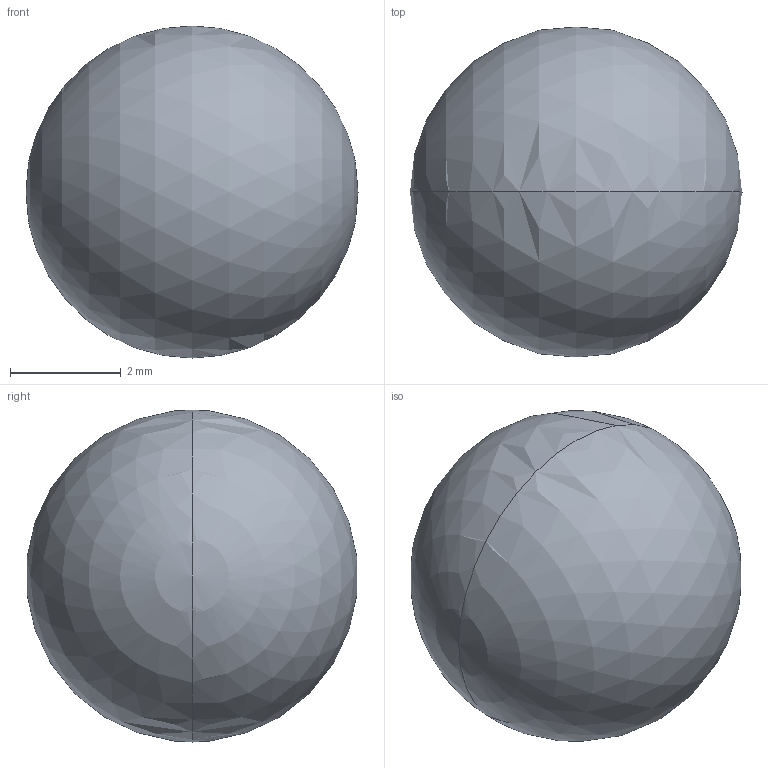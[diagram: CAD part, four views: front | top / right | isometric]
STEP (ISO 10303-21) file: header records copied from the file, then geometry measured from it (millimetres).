
FILE_DESCRIPTION((''),'2;1');
FILE_NAME('6MM_STEEL_BALL','2024-02-22T16:06:21',('qinghui.yi'),(''),'CREO PARAMETRIC BY PTC INC, 2019164','CREO PARAMETRIC BY PTC INC, 2019164','');
FILE_SCHEMA(('CONFIG_CONTROL_DESIGN','SHAPE_APPEARANCE_LAYERS_GROUPS'));
Length unit declared in the file: millimetre
Products named in the file (1): 6MM_STEEL_BALL
Bounding box: 6 x 5.96 x 6 mm (x, y, z)
Volume: 113.1 mm3; surface area: 113.1 mm2
Topology: 1 solids, 1 shells, 2 faces, 9 edges, 8 vertices
Faces by surface type: sphere 2
Entity records: 443 total; most frequent: COLOUR_RGB 312, DIRECTION 13, CARTESIAN_POINT 10, DRAUGHTING_PRE_DEFINED_COLOUR 8, AXIS2_PLACEMENT_3D 5, ORIENTED_EDGE 4, CURVE_STYLE 4, PRESENTATION_STYLE_ASSIGNMENT 4
